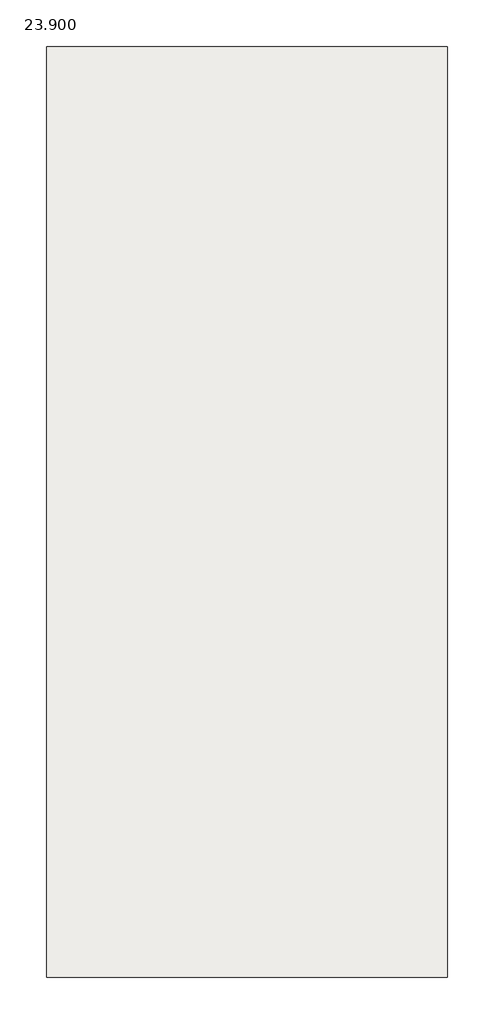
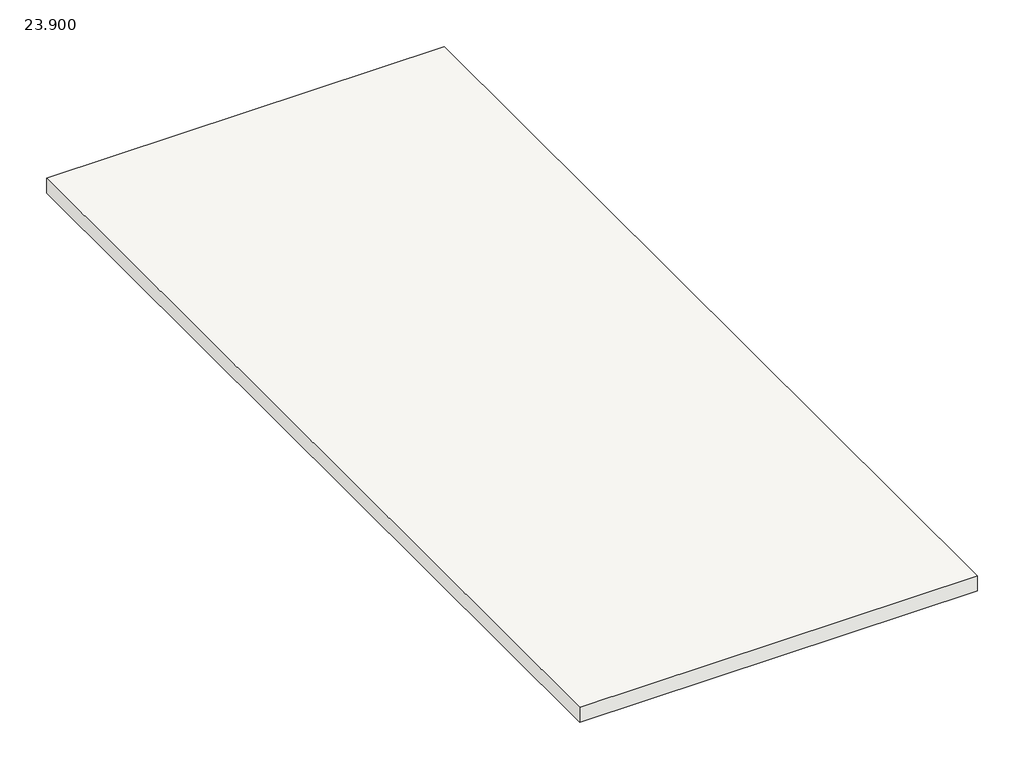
# One storey: 1 roof.
"""IFC4 building model written with IfcOpenShell, lengths in millimetres."""

from ifc_helpers import new_model, si_unit, frame, origin, place, context, project, spatial, polyline, outline, extrude, element, save

model = new_model("IFC4")

# Units and contexts
model_context = context("Model", 3, world=origin())
ifc_project = project(units=[si_unit("LENGTHUNIT", "METRE", prefix="MILLI")], contexts=[model_context])

# Site, building, storey
site = spatial("IfcSite", under=ifc_project)
building = spatial("IfcBuilding", under=site)
storey = spatial("IfcBuildingStorey", under=building, Name="23.900", Elevation=23900.0)

# Roof
placement = place(None, origin())
element("IfcRoof", 1, ObjectType="100mm厚钢筋混凝土", at=placement, inside=storey, context=model_context, shape_type="SweptSolid", body=[
    extrude(outline(polyline([(16000.0, 13400.0), (18500.0, 13400.0), (18500.0, 7600.0), (16000.0, 7600.0), (16000.0, 13400.0)])), frame((0.0, 0.0, 23300.0), z_axis=(0.0, 0.0, 1.0), x_axis=(1.0, 0.0, 0.0)), (0.0, 0.0, 1.0), 100.0),
])

save(model, "model.ifc")
